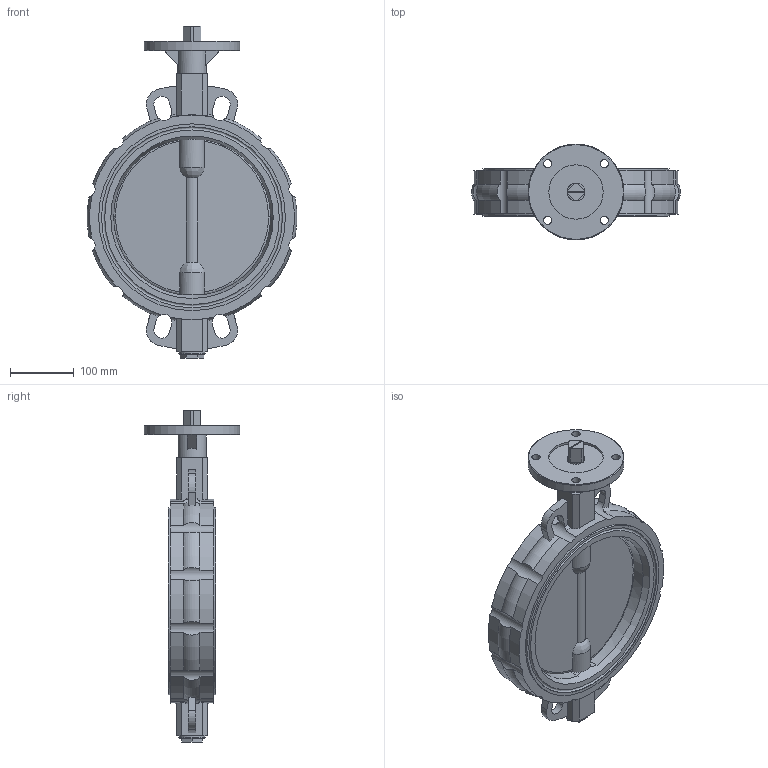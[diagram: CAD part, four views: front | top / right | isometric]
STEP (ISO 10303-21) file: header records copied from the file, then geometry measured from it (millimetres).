
FILE_DESCRIPTION( ( 'STEP AP214' ), '1' );
FILE_NAME( ' ', ' ', ( ' ' ), ( ' ' ), 'PSStep 13.0', 'VISI 18.0', ' ' );
FILE_SCHEMA( ( 'AUTOMOTIVE_DESIGN { 1 0 10303 214 1 1 1 1 }' ) );
Length unit declared in the file: millimetre
Products named in the file (1): 1
Bounding box: 327.13 x 150 x 519 mm (x, y, z)
Volume: 3737839.3 mm3; surface area: 372652.5 mm2
Topology: 1 solids, 1 shells, 196 faces, 576 edges, 386 vertices
Faces by surface type: plane 85, cylinder 74, torus 21, bspline 12, cone 4
Full cylindrical faces by diameter (mm): 13 x4, 28 x1, 41.2 x1, 45 x1, 85 x1, 150 x1, 283 x1, 292 x2
Entity records: 11792 total; most frequent: CARTESIAN_POINT 5117, ORIENTED_EDGE 1098, DIRECTION 1032, EDGE_CURVE 549, AXIS2_PLACEMENT_3D 402, VERTEX_POINT 378, EDGE_LOOP 235, LINE 228
